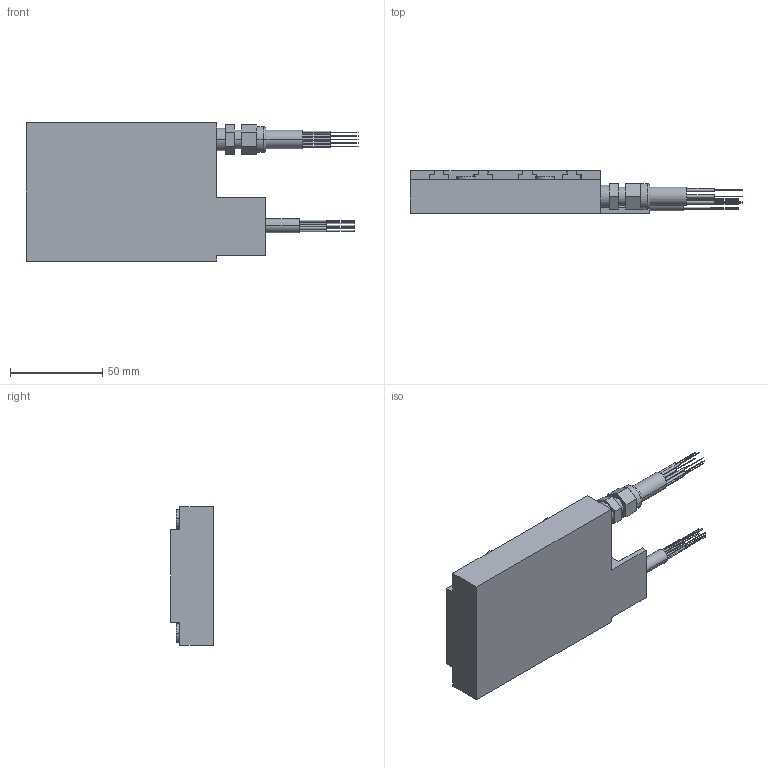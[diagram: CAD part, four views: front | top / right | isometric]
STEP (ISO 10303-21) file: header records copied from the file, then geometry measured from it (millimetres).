
FILE_DESCRIPTION((''),'2;1');
FILE_NAME('ICD05-050','2007-01-14T',('saurabh.singhal'),(''),'PRO/ENGINEER BY PARAMETRIC TECHNOLOGY CORPORATION, 2005450','PRO/ENGINEER BY PARAMETRIC TECHNOLOGY CORPORATION, 2005450','');
FILE_SCHEMA(('CONFIG_CONTROL_DESIGN'));
Length unit declared in the file: millimetre
Products named in the file (1): ICD05-050
Bounding box: 180.3 x 23.2 x 75 mm (x, y, z)
Volume: 181565 mm3; surface area: 36679.6 mm2
Topology: 1 solids, 17 shells, 357 faces, 853 edges, 549 vertices
Faces by surface type: plane 171, cylinder 152, cone 32, torus 2
Entity records: 10218 total; most frequent: DIRECTION 1881, CARTESIAN_POINT 1728, ORIENTED_EDGE 1578, EDGE_CURVE 821, AXIS2_PLACEMENT_3D 702, VERTEX_POINT 549, VECTOR 477, LINE 477
